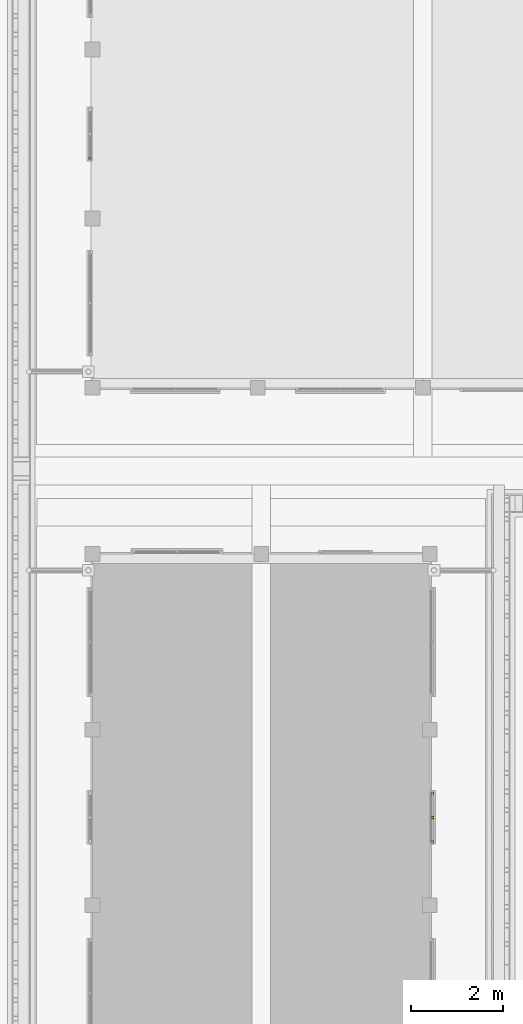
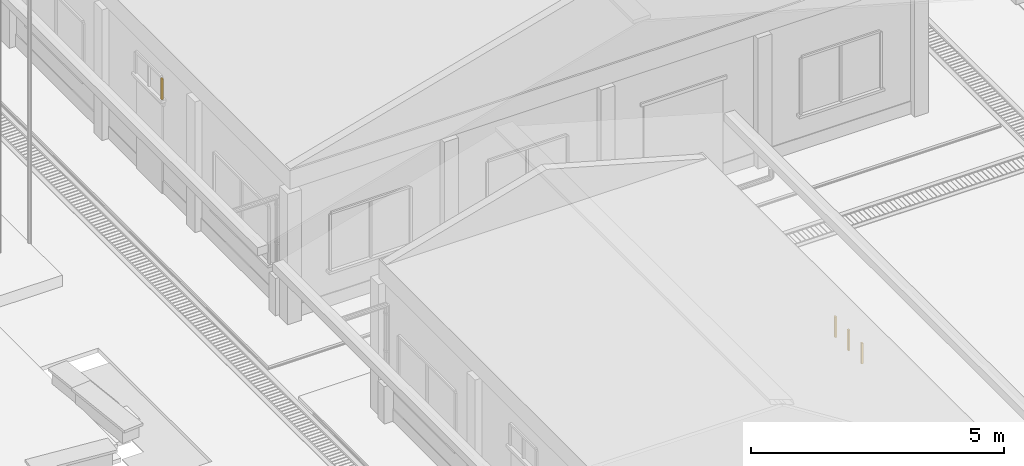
# One storey, part 74 of 151: 4 windows.
"""IFC2X3 building model written with IfcOpenShell, lengths in metres."""

from ifc_helpers import new_model, si_unit, origin, origin_with_axes, place, context, subcontext, project, spatial, faceted_brep, element, save


model = new_model("IFC2X3")

# Units and contexts
model_context = context("Model", 3, precision=1e-05, world=origin_with_axes())
body_context = subcontext(model_context, "Body", "Model", "MODEL_VIEW")
ifc_project = project(units=[si_unit("LENGTHUNIT", "METRE"), si_unit("AREAUNIT", "SQUARE_METRE"), si_unit("VOLUMEUNIT", "CUBIC_METRE"), si_unit("PLANEANGLEUNIT", "RADIAN")], contexts=[model_context])

# Site, building, storey
site_placement = place(None, origin_with_axes())
site = spatial("IfcSite", under=ifc_project, at=site_placement, Name="Predio Los Mangos - Morales, San Martín", CompositionType="ELEMENT")
building_placement = place(site_placement, origin())
building = spatial("IfcBuilding", under=site, at=building_placement, Name="Hogar de Refugio Temporal", CompositionType="ELEMENT")
storey_placement = place(building_placement, origin())
storey = spatial("IfcBuildingStorey", under=building, at=storey_placement, Name="NIVEL 1 (NPT +0.00)", CompositionType="ELEMENT", Elevation=0.0)

# Windows
window_1_placement = place(storey_placement, origin())
element("IfcWindow", 1, at=window_1_placement, inside=storey, Name="E-02_vt1_m", ObjectType="Ventana", context=body_context, shape_type="Brep", body=[
    faceted_brep([(52.64, 48.05, 2.45), (52.64, 48.1, 2.45), (52.68, 48.1, 2.45), (52.68, 48.05, 2.45), (52.64, 48.05, 2.95), (52.68, 48.05, 2.95), (52.68, 48.1, 2.95), (52.64, 48.1, 2.95)], [[[0, 1, 2, 3]], [[4, 5, 6, 7]], [[0, 3, 5, 4]], [[3, 2, 6, 5]], [[2, 1, 7, 6]], [[1, 0, 4, 7]]]),
])
window_2_placement = place(storey_placement, origin())
element("IfcWindow", 2, at=window_2_placement, inside=storey, Name="E-02_vt1_m", ObjectType="Ventana", context=body_context, shape_type="Brep", body=[
    faceted_brep([(52.64, 49.1, 2.45), (52.64, 49.15, 2.45), (52.68, 49.15, 2.45), (52.68, 49.1, 2.45), (52.64, 49.1, 2.95), (52.68, 49.1, 2.95), (52.68, 49.15, 2.95), (52.64, 49.15, 2.95)], [[[0, 1, 2, 3]], [[4, 5, 6, 7]], [[0, 3, 5, 4]], [[3, 2, 6, 5]], [[2, 1, 7, 6]], [[1, 0, 4, 7]]]),
])
window_3_placement = place(storey_placement, origin())
element("IfcWindow", 3, at=window_3_placement, inside=storey, Name="E-02_vt1_m", ObjectType="Ventana", context=body_context, shape_type="Brep", body=[
    faceted_brep([(52.64, 48.575, 2.45), (52.64, 48.625, 2.45), (52.68, 48.625, 2.45), (52.68, 48.575, 2.45), (52.64, 48.575, 2.95), (52.68, 48.575, 2.95), (52.68, 48.625, 2.95), (52.64, 48.625, 2.95)], [[[0, 1, 2, 3]], [[4, 5, 6, 7]], [[0, 3, 5, 4]], [[3, 2, 6, 5]], [[2, 1, 7, 6]], [[1, 0, 4, 7]]]),
])
window_4_placement = place(storey_placement, origin())
element("IfcWindow", 4, at=window_4_placement, inside=storey, Name="E-05_vt1_m", ObjectType="Ventana", context=body_context, shape_type="Brep", body=[
    faceted_brep([(45.22, 62.8438, 2.45), (45.22, 62.8937, 2.45), (45.26, 62.8937, 2.45), (45.26, 62.8438, 2.45), (45.22, 62.8438, 2.95), (45.26, 62.8438, 2.95), (45.26, 62.8937, 2.95), (45.22, 62.8937, 2.95)], [[[0, 1, 2, 3]], [[4, 5, 6, 7]], [[0, 3, 5, 4]], [[3, 2, 6, 5]], [[2, 1, 7, 6]], [[1, 0, 4, 7]]]),
])

save(model, "model.ifc")
